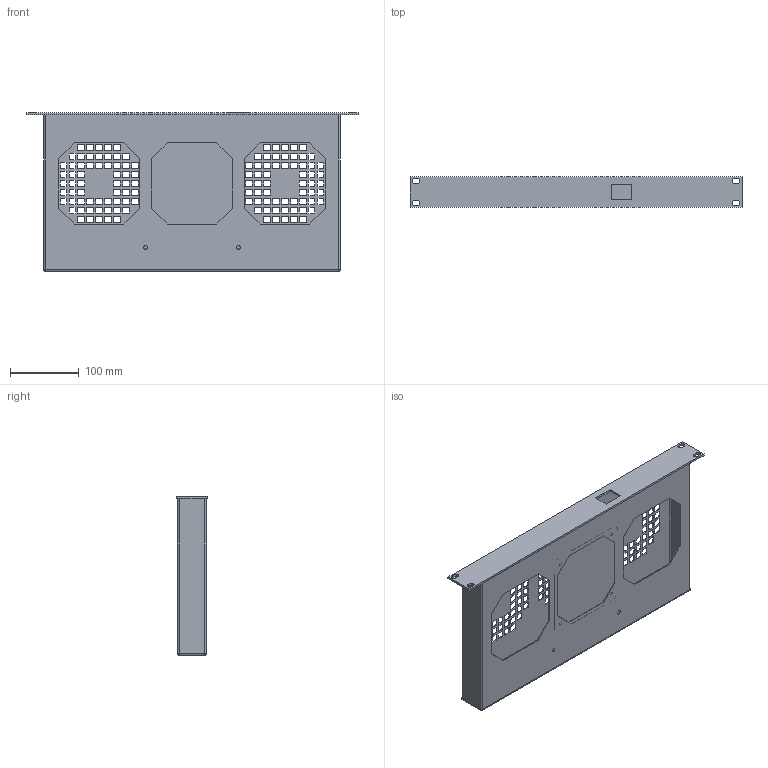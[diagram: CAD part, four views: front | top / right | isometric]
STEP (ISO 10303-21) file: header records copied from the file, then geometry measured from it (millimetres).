
FILE_DESCRIPTION (( 'STEP AP203' ), '1' );
FILE_NAME ('FI 02.230 Ìîäóëü âåíòèëÿòîðíûé.STEP', '2013-01-14T12:41:05', ( 'Àëåêñàíäð' ), ( 'Ïðîâåíòî' ), 'SwSTEP 2.0', 'SolidWorks 2012', '' );
FILE_SCHEMA (( 'CONFIG_CONTROL_DESIGN' ));
Products named in the file (1): FI 02.230 Ìîäóëü âåíòèëÿòîðíûé
Bounding box: 482.6 x 43.7 x 230.7 mm (x, y, z)
Volume: 290592.8 mm3; surface area: 436759.5 mm2
Topology: 2 solids, 2 shells, 1555 faces, 4628 edges, 3072 vertices
Faces by surface type: plane 785, cylinder 762, sphere 8
Entity records: 53317 total; most frequent: DIRECTION 9256, CARTESIAN_POINT 9248, ORIENTED_EDGE 9240, EDGE_CURVE 4620, VECTOR 3096, LINE 3096, AXIS2_PLACEMENT_3D 3080, VERTEX_POINT 3072
